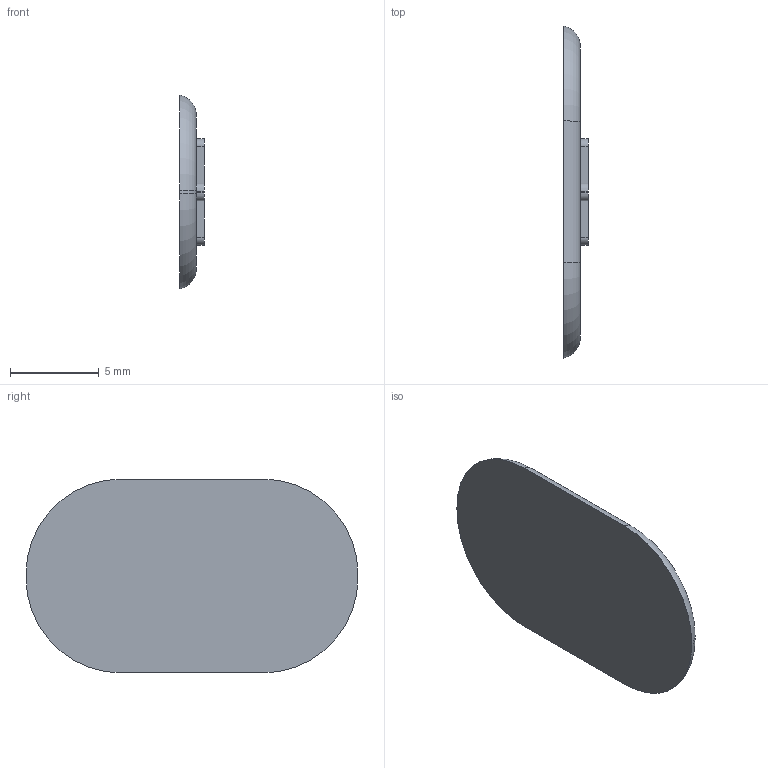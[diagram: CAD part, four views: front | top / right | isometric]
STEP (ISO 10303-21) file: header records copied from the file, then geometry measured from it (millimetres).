
FILE_DESCRIPTION(/* description */ (''),/* implementation_level */ '2;1');
FILE_NAME(/* name */ 'C27_R2_12_Volume_Up_Pewter_Cap.step',/* time_stamp */ '2026-09-10T17:48:32-07:00',/* author */ (''),/* organization */ (''),/* preprocessor_version */ 'ST-DEVELOPER v20.1',/* originating_system */ 'Autodesk Translation Framework v15.8.0.0',/* authorisation */ '');
FILE_SCHEMA (('AUTOMOTIVE_DESIGN { 1 0 10303 214 3 1 1 }'));
Length unit declared in the file: millimetre
Products named in the file (1): 2026-09-10-17-48-32-810
Bounding box: 1.4 x 18.75 x 10.95 mm (x, y, z)
Volume: 162.6 mm3; surface area: 393.5 mm2
Topology: 1 solids, 1 shells, 31 faces, 84 edges, 56 vertices
Faces by surface type: plane 15, cylinder 12, torus 4
Entity records: 1023 total; most frequent: DIRECTION 180, CARTESIAN_POINT 172, ORIENTED_EDGE 168, EDGE_CURVE 84, AXIS2_PLACEMENT_3D 64, VERTEX_POINT 56, LINE 52, VECTOR 52
